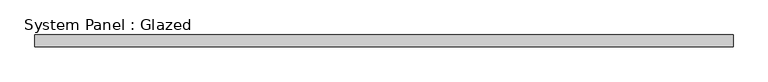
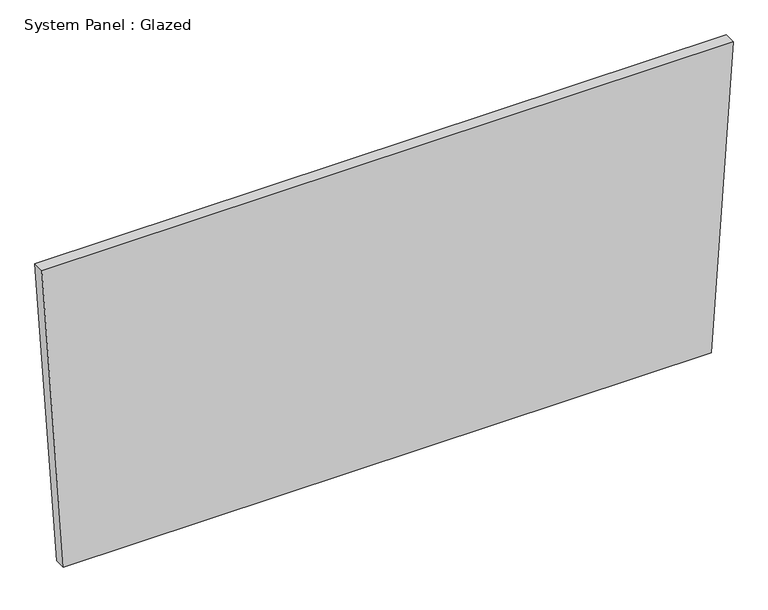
"""IFC4 building model written with IfcOpenShell, lengths in millimetres: plate geometry, System Panel : Glazed."""

from ifc_helpers import new_model, si_unit, frame, origin, place, context, project, spatial, polyline, outline, extrude, source, transform, mapped, element, save


def system_panel_glazed_4bbc0f11(model_context):
    return source(origin(), model_context, "Body", "SweptSolid", [
        extrude(outline(polyline([(0.0, -688.4526781), (0.0002431, 688.4526771), (682.7226224, 734.4115866), (682.7223631, -734.4115866), (0.0, -688.4526781)])), frame((0.0, 19.05, 0.0), z_axis=(0.0, 1.0, 0.0), x_axis=(0.0, 0.0, 1.0)), (0.0, 0.0, 1.0), 25.4),
    ])


if __name__ == "__main__":
    model = new_model("IFC4")
    model_context = context("Model", 3, world=origin())
    ifc_project = project(units=[si_unit("LENGTHUNIT", "METRE", prefix="MILLI")], contexts=[model_context])
    site = spatial("IfcSite", under=ifc_project)
    building = spatial("IfcBuilding", under=site)
    placement = place(None, origin())
    system_panel_glazed_shape = system_panel_glazed_4bbc0f11(model_context)
    element("IfcPlate", 1, ObjectType="System Panel : Glazed", at=placement, inside=building, context=model_context, shape_type="MappedRepresentation", body=[
        mapped(system_panel_glazed_shape, transform((0.0, 0.0, 0.0), x_axis=(1.0, 0.0, 0.0), y_axis=(0.0, 1.0, 0.0), z_axis=(0.0, 0.0, 1.0))),
    ])
    save(model, "model.ifc")
